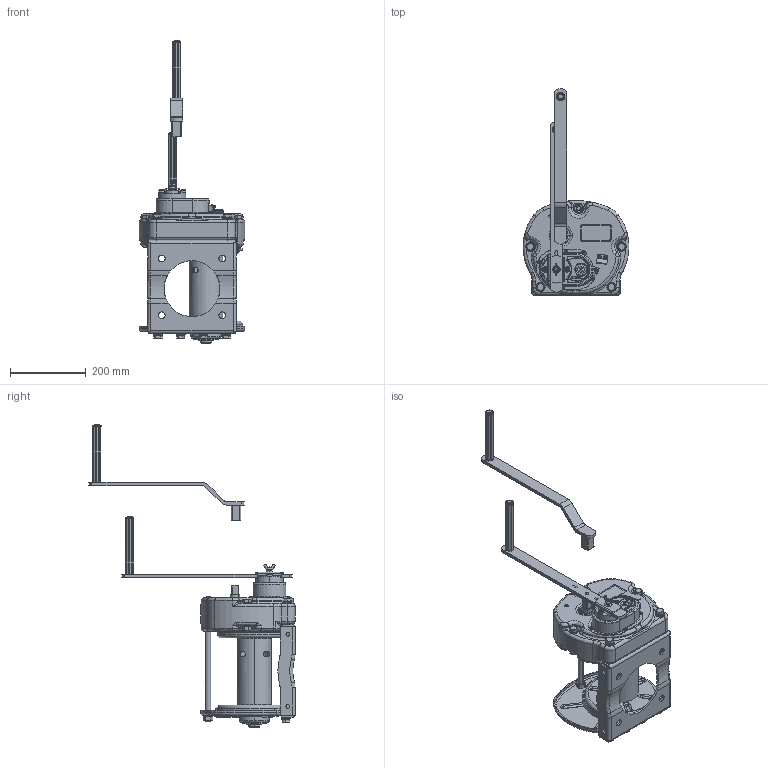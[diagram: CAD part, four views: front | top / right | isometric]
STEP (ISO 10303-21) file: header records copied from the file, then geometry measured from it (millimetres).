
FILE_DESCRIPTION( (''), '2;1');
FILE_NAME ('GM-20-GS.stp','2023-12-22T14:53:25',(''),(''),'spGate 19.8.2 (****-****-****-****)','','');
FILE_SCHEMA (('AUTOMOTIVE_DESIGN'));
Length unit declared in the file: millimetre
Products named in the file (4): Assembly; GM-20-GS-prt0; GM-20-GS-prt1; GM-20-GS-prt2
Assembly tree (3 placements, depth 2):
  Assembly
    GM-20-GS-prt0
    GM-20-GS-prt1
    GM-20-GS-prt2
Bounding box: 279.93 x 545.43 x 801.4 mm (x, y, z)
Volume: 7114994.7 mm3; surface area: 1019205.7 mm2
Topology: 3 solids, 3 shells, 2947 faces, 7676 edges, 4826 vertices
Faces by surface type: plane 1383, cylinder 959, bspline 505, sphere 100
Entity records: 162298 total; most frequent: CARTESIAN_POINT 31271, ORIENTED_EDGE 15188, DIRECTION 14552, COLOUR_RGB 10544, PRESENTATION_STYLE_ASSIGNMENT 10544, STYLED_ITEM 10544, EDGE_CURVE 7594, DRAUGHTING_PRE_DEFINED_CURVE_FONT 7594
